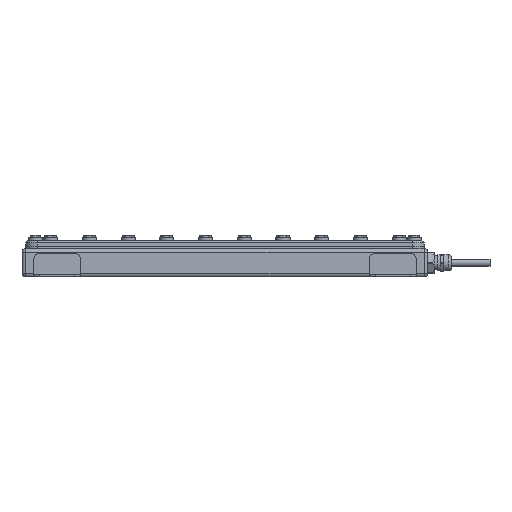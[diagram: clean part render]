
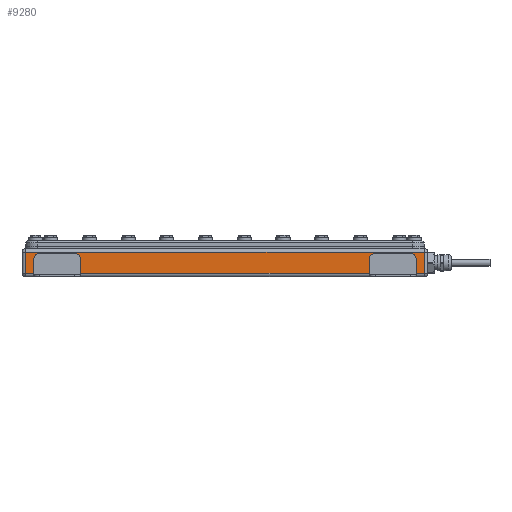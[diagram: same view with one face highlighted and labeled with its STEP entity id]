
A CAD part, front view. The second image highlights one B-rep face of the part: STEP entity #9280.
In plain terms, the highlighted planar face has unit normal (0, -1, 0).
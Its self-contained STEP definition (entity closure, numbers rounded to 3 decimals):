
#155 = DIRECTION ( 'NONE',  ( -1., 0., 0. ) ) ;
#269 = LINE ( 'NONE', #16257, #7532 ) ;
#354 = LINE ( 'NONE', #10204, #20421 ) ;
#758 = ORIENTED_EDGE ( 'NONE', *, *, #19239, .F. ) ;
#949 = DIRECTION ( 'NONE',  ( 0., 0., 1. ) ) ;
#956 = EDGE_CURVE ( 'NONE', #11112, #8013, #9884, .T. ) ;
#1021 = EDGE_CURVE ( 'NONE', #14241, #18210, #4047, .T. ) ;
#1161 = ORIENTED_EDGE ( 'NONE', *, *, #1021, .F. ) ;
#1350 = EDGE_CURVE ( 'NONE', #11021, #15867, #15032, .T. ) ;
#1446 = DIRECTION ( 'NONE',  ( 0., 0., -1. ) ) ;
#2147 = AXIS2_PLACEMENT_3D ( 'NONE', #7101, #19944, #5637 ) ;
#2378 = VECTOR ( 'NONE', #6240, 1000. ) ;
#2751 = VERTEX_POINT ( 'NONE', #15274 ) ;
#2914 = CARTESIAN_POINT ( 'NONE',  ( 158., -273., 15. ) ) ;
#3053 = VERTEX_POINT ( 'NONE', #18067 ) ;
#3159 = ORIENTED_EDGE ( 'NONE', *, *, #10364, .T. ) ;
#3310 = DIRECTION ( 'NONE',  ( 0., 0., 1. ) ) ;
#3439 = CARTESIAN_POINT ( 'NONE',  ( -163., -273., 0. ) ) ;
#3457 = AXIS2_PLACEMENT_3D ( 'NONE', #2914, #19075, #3310 ) ;
#3575 = EDGE_CURVE ( 'NONE', #2751, #9851, #354, .T. ) ;
#3744 = EDGE_CURVE ( 'NONE', #9851, #19971, #6730, .T. ) ;
#3903 = DIRECTION ( 'NONE',  ( 0., 0., 1. ) ) ;
#4002 = DIRECTION ( 'NONE',  ( 0., 1., 0. ) ) ;
#4047 = LINE ( 'NONE', #11564, #6692 ) ;
#4049 = ORIENTED_EDGE ( 'NONE', *, *, #19276, .T. ) ;
#4082 = ORIENTED_EDGE ( 'NONE', *, *, #18389, .T. ) ;
#4186 = CARTESIAN_POINT ( 'NONE',  ( 170., -273., 3. ) ) ;
#4190 = ORIENTED_EDGE ( 'NONE', *, *, #8885, .T. ) ;
#4302 = CARTESIAN_POINT ( 'NONE',  ( 170., -273., 24. ) ) ;
#4417 = CARTESIAN_POINT ( 'NONE',  ( 173., -273., 3. ) ) ;
#5191 = EDGE_CURVE ( 'NONE', #20283, #11112, #20511, .T. ) ;
#5224 = ORIENTED_EDGE ( 'NONE', *, *, #956, .T. ) ;
#5316 = DIRECTION ( 'NONE',  ( 0., 1., 0. ) ) ;
#5464 = EDGE_LOOP ( 'NONE', ( #1161, #3159, #17787, #10082, #9560, #5224, #4049, #10313, #758, #18249, #11603, #8125, #9021, #4190, #18050, #4082 ) ) ;
#5637 = DIRECTION ( 'NONE',  ( 0., 0., 1. ) ) ;
#5969 = DIRECTION ( 'NONE',  ( 1., 0., 0. ) ) ;
#6083 = CARTESIAN_POINT ( 'NONE',  ( 163., -273., 3. ) ) ;
#6240 = DIRECTION ( 'NONE',  ( 0., 0., 1. ) ) ;
#6555 = CARTESIAN_POINT ( 'NONE',  ( -128., -273., 20. ) ) ;
#6692 = VECTOR ( 'NONE', #949, 1000. ) ;
#6730 = LINE ( 'NONE', #9548, #16073 ) ;
#6880 = DIRECTION ( 'NONE',  ( 1., 0., 0. ) ) ;
#7101 = CARTESIAN_POINT ( 'NONE',  ( -173., -273., 24. ) ) ;
#7215 = FACE_OUTER_BOUND ( 'NONE', #5464, .T. ) ;
#7389 = CARTESIAN_POINT ( 'NONE',  ( 163., -273., 15. ) ) ;
#7441 = LINE ( 'NONE', #15180, #17619 ) ;
#7509 = LINE ( 'NONE', #12406, #2378 ) ;
#7532 = VECTOR ( 'NONE', #8028, 1000. ) ;
#7538 = DIRECTION ( 'NONE',  ( 0., 0., 1. ) ) ;
#7561 = CARTESIAN_POINT ( 'NONE',  ( 158., -273., 20. ) ) ;
#7765 = AXIS2_PLACEMENT_3D ( 'NONE', #18297, #4002, #3903 ) ;
#8000 = EDGE_CURVE ( 'NONE', #3053, #20397, #9722, .T. ) ;
#8013 = VERTEX_POINT ( 'NONE', #8547 ) ;
#8028 = DIRECTION ( 'NONE',  ( -1., 0., 0. ) ) ;
#8125 = ORIENTED_EDGE ( 'NONE', *, *, #3575, .T. ) ;
#8330 = VECTOR ( 'NONE', #7538, 1000. ) ;
#8547 = CARTESIAN_POINT ( 'NONE',  ( -163., -273., 3. ) ) ;
#8694 = DIRECTION ( 'NONE',  ( -1., 0., 0. ) ) ;
#8885 = EDGE_CURVE ( 'NONE', #19971, #18846, #11436, .T. ) ;
#9021 = ORIENTED_EDGE ( 'NONE', *, *, #3744, .T. ) ;
#9280 = ADVANCED_FACE ( 'NONE', ( #7215 ), #13580, .F. ) ;
#9342 = CARTESIAN_POINT ( 'NONE',  ( -170., -273., 24. ) ) ;
#9480 = DIRECTION ( 'NONE',  ( 1., 0., 0. ) ) ;
#9548 = CARTESIAN_POINT ( 'NONE',  ( 123., -273., 0. ) ) ;
#9560 = ORIENTED_EDGE ( 'NONE', *, *, #5191, .T. ) ;
#9722 = CIRCLE ( 'NONE', #14071, 5. ) ;
#9817 = VECTOR ( 'NONE', #5969, 1000. ) ;
#9851 = VERTEX_POINT ( 'NONE', #14164 ) ;
#9884 = LINE ( 'NONE', #16137, #19357 ) ;
#10082 = ORIENTED_EDGE ( 'NONE', *, *, #11679, .T. ) ;
#10204 = CARTESIAN_POINT ( 'NONE',  ( 123., -273., 3. ) ) ;
#10313 = ORIENTED_EDGE ( 'NONE', *, *, #8000, .T. ) ;
#10364 = EDGE_CURVE ( 'NONE', #14241, #16101, #15876, .T. ) ;
#11021 = VERTEX_POINT ( 'NONE', #6555 ) ;
#11112 = VERTEX_POINT ( 'NONE', #15590 ) ;
#11268 = LINE ( 'NONE', #3439, #16082 ) ;
#11436 = CIRCLE ( 'NONE', #7765, 5. ) ;
#11564 = CARTESIAN_POINT ( 'NONE',  ( 163., -273., 0. ) ) ;
#11603 = ORIENTED_EDGE ( 'NONE', *, *, #15076, .F. ) ;
#11656 = VERTEX_POINT ( 'NONE', #16052 ) ;
#11679 = EDGE_CURVE ( 'NONE', #11656, #20283, #269, .T. ) ;
#11687 = DIRECTION ( 'NONE',  ( 0., 0., 1. ) ) ;
#11718 = DIRECTION ( 'NONE',  ( 0., 1., 0. ) ) ;
#11761 = VECTOR ( 'NONE', #155, 1000. ) ;
#12406 = CARTESIAN_POINT ( 'NONE',  ( -123., -273., 0. ) ) ;
#12519 = VECTOR ( 'NONE', #1446, 1000. ) ;
#12617 = VERTEX_POINT ( 'NONE', #7561 ) ;
#12912 = DIRECTION ( 'NONE',  ( 0., 0., 1. ) ) ;
#13255 = LINE ( 'NONE', #16353, #11761 ) ;
#13580 = PLANE ( 'NONE',  #2147 ) ;
#13828 = CARTESIAN_POINT ( 'NONE',  ( -170., -273., 21. ) ) ;
#13945 = CARTESIAN_POINT ( 'NONE',  ( 123., -273., 15. ) ) ;
#14071 = AXIS2_PLACEMENT_3D ( 'NONE', #19729, #5316, #11687 ) ;
#14164 = CARTESIAN_POINT ( 'NONE',  ( 123., -273., 3. ) ) ;
#14241 = VERTEX_POINT ( 'NONE', #6083 ) ;
#14309 = LINE ( 'NONE', #4302, #8330 ) ;
#14362 = CARTESIAN_POINT ( 'NONE',  ( -128., -273., 15. ) ) ;
#14609 = DIRECTION ( 'NONE',  ( 0., 0., 1. ) ) ;
#14633 = EDGE_CURVE ( 'NONE', #16101, #11656, #14309, .T. ) ;
#14839 = CARTESIAN_POINT ( 'NONE',  ( 128., -273., 20. ) ) ;
#15032 = CIRCLE ( 'NONE', #15694, 5. ) ;
#15076 = EDGE_CURVE ( 'NONE', #2751, #15867, #7509, .T. ) ;
#15180 = CARTESIAN_POINT ( 'NONE',  ( 163., -273., 20. ) ) ;
#15274 = CARTESIAN_POINT ( 'NONE',  ( -123., -273., 3. ) ) ;
#15464 = CIRCLE ( 'NONE', #3457, 5. ) ;
#15590 = CARTESIAN_POINT ( 'NONE',  ( -170., -273., 3. ) ) ;
#15694 = AXIS2_PLACEMENT_3D ( 'NONE', #14362, #11718, #12912 ) ;
#15867 = VERTEX_POINT ( 'NONE', #17864 ) ;
#15876 = LINE ( 'NONE', #4417, #9817 ) ;
#16052 = CARTESIAN_POINT ( 'NONE',  ( 170., -273., 21. ) ) ;
#16073 = VECTOR ( 'NONE', #19464, 1000. ) ;
#16082 = VECTOR ( 'NONE', #14609, 1000. ) ;
#16101 = VERTEX_POINT ( 'NONE', #4186 ) ;
#16137 = CARTESIAN_POINT ( 'NONE',  ( -163., -273., 3. ) ) ;
#16257 = CARTESIAN_POINT ( 'NONE',  ( -173., -273., 21. ) ) ;
#16353 = CARTESIAN_POINT ( 'NONE',  ( -163., -273., 20. ) ) ;
#17548 = EDGE_CURVE ( 'NONE', #12617, #18846, #7441, .T. ) ;
#17619 = VECTOR ( 'NONE', #8694, 1000. ) ;
#17787 = ORIENTED_EDGE ( 'NONE', *, *, #14633, .T. ) ;
#17864 = CARTESIAN_POINT ( 'NONE',  ( -123., -273., 15. ) ) ;
#18050 = ORIENTED_EDGE ( 'NONE', *, *, #17548, .F. ) ;
#18067 = CARTESIAN_POINT ( 'NONE',  ( -163., -273., 15. ) ) ;
#18210 = VERTEX_POINT ( 'NONE', #7389 ) ;
#18249 = ORIENTED_EDGE ( 'NONE', *, *, #1350, .T. ) ;
#18297 = CARTESIAN_POINT ( 'NONE',  ( 128., -273., 15. ) ) ;
#18389 = EDGE_CURVE ( 'NONE', #12617, #18210, #15464, .T. ) ;
#18846 = VERTEX_POINT ( 'NONE', #14839 ) ;
#19075 = DIRECTION ( 'NONE',  ( 0., 1., 0. ) ) ;
#19239 = EDGE_CURVE ( 'NONE', #11021, #20397, #13255, .T. ) ;
#19276 = EDGE_CURVE ( 'NONE', #8013, #3053, #11268, .T. ) ;
#19357 = VECTOR ( 'NONE', #9480, 1000. ) ;
#19464 = DIRECTION ( 'NONE',  ( 0., 0., 1. ) ) ;
#19729 = CARTESIAN_POINT ( 'NONE',  ( -158., -273., 15. ) ) ;
#19944 = DIRECTION ( 'NONE',  ( 0., 1., 0. ) ) ;
#19971 = VERTEX_POINT ( 'NONE', #13945 ) ;
#20046 = CARTESIAN_POINT ( 'NONE',  ( -158., -273., 20. ) ) ;
#20283 = VERTEX_POINT ( 'NONE', #13828 ) ;
#20397 = VERTEX_POINT ( 'NONE', #20046 ) ;
#20421 = VECTOR ( 'NONE', #6880, 1000. ) ;
#20511 = LINE ( 'NONE', #9342, #12519 ) ;
